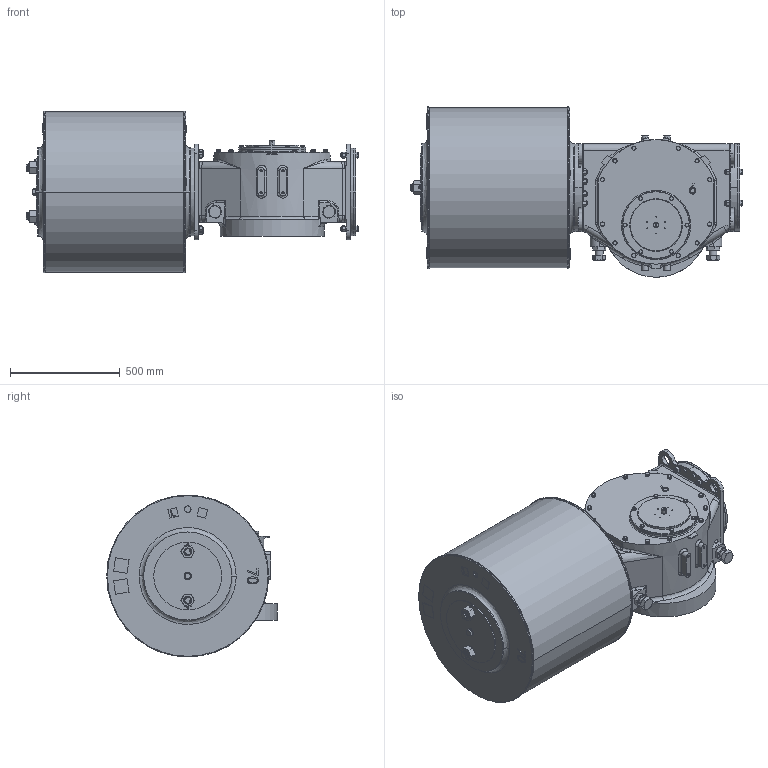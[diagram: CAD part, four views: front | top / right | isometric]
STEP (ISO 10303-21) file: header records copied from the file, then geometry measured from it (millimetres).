
FILE_DESCRIPTION (( 'STEP AP203' ), '1' );
FILE_NAME ('VTS6-700.STEP', '2023-01-01T10:02:13', ( '' ), ( '' ), 'SwSTEP 2.0', 'SolidWorks 2020', '' );
FILE_SCHEMA (( 'CONFIG_CONTROL_DESIGN' ));
Length unit declared in the file: millimetre
Products named in the file (1): VTS6-700
Bounding box: 1515.18 x 778 x 739 mm (x, y, z)
Volume: 397664176 mm3; surface area: 5011234.2 mm2
Topology: 3 solids, 6 shells, 1943 faces, 4973 edges, 3158 vertices
Faces by surface type: plane 817, cylinder 590, cone 453, bspline 83
Entity records: 72032 total; most frequent: CARTESIAN_POINT 25802, ORIENTED_EDGE 9842, DIRECTION 9492, EDGE_CURVE 4921, AXIS2_PLACEMENT_3D 3758, VERTEX_POINT 3158, EDGE_LOOP 2205, LINE 1976
